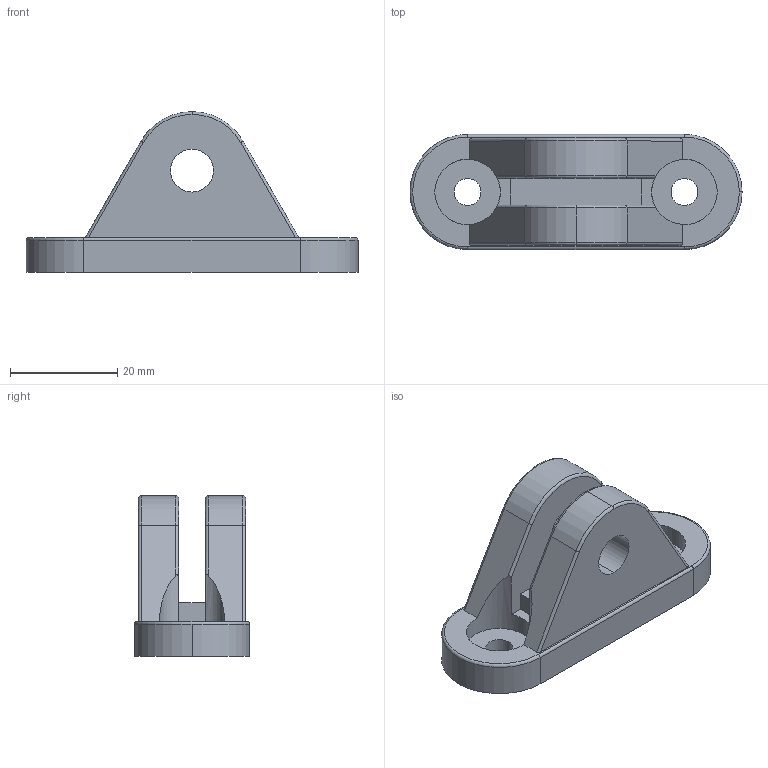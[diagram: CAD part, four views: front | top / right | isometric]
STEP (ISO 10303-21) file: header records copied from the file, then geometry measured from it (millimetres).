
FILE_DESCRIPTION (( 'STEP AP214' ), '1' );
FILE_NAME ('15.BS.P100.STEP', '2017-11-09T09:45:52', ( '' ), ( '' ), 'SwSTEP 2.0', 'SolidWorks 2016', '' );
FILE_SCHEMA (( 'AUTOMOTIVE_DESIGN' ));
Length unit declared in the file: millimetre
Products named in the file (1): 15.BS.P100
Bounding box: 62 x 21.5 x 30 mm (x, y, z)
Volume: 15608.8 mm3; surface area: 6455.8 mm2
Topology: 1 solids, 1 shells, 56 faces, 145 edges, 92 vertices
Faces by surface type: cylinder 28, plane 19, torus 9
Entity records: 1816 total; most frequent: CARTESIAN_POINT 370, DIRECTION 312, ORIENTED_EDGE 290, EDGE_CURVE 145, AXIS2_PLACEMENT_3D 122, VERTEX_POINT 92, LINE 68, VECTOR 68
